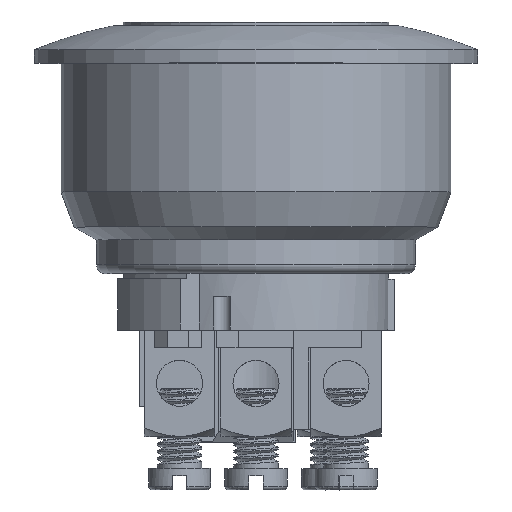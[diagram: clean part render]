
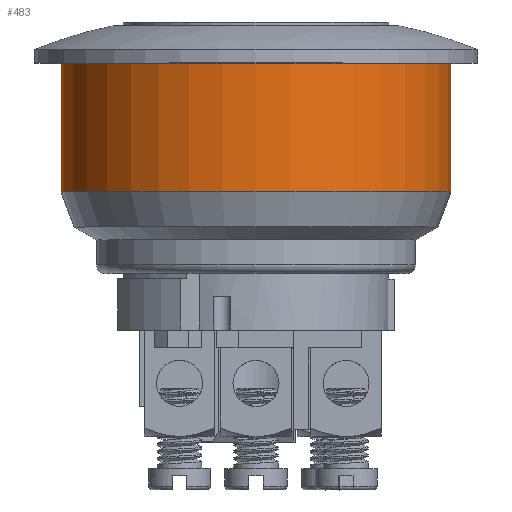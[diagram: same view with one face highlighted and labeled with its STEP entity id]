
A CAD part, top view. The second image highlights one B-rep face of the part: STEP entity #483.
In plain terms, the highlighted cylindrical face has radius 11 mm (diameter 22 mm), a partial arc.
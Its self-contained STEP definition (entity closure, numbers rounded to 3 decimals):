
#209=DIRECTION('',(0.,1.,0.));
#210=VECTOR('',#209,7.261);
#211=CARTESIAN_POINT('',(22.,4.679,-11.006));
#212=LINE('',#211,#210);
#213=CARTESIAN_POINT('',(11.,4.679,-11.006));
#214=DIRECTION('',(0.,-1.,0.));
#215=DIRECTION('',(1.,0.,0.));
#216=AXIS2_PLACEMENT_3D('',#213,#214,#215);
#218=DIRECTION('',(0.,1.,0.));
#219=VECTOR('',#218,7.261);
#220=CARTESIAN_POINT('',(0.,4.679,-11.006));
#221=LINE('',#220,#219);
#232=CARTESIAN_POINT('',(11.,11.94,-11.006));
#233=DIRECTION('',(0.,-1.,0.));
#234=DIRECTION('',(1.,0.,0.));
#235=AXIS2_PLACEMENT_3D('',#232,#233,#234);
#296=CARTESIAN_POINT('',(22.,4.679,-11.006));
#298=VERTEX_POINT('',#296);
#299=CARTESIAN_POINT('',(22.,11.94,-11.006));
#300=VERTEX_POINT('',#299);
#308=CARTESIAN_POINT('',(0.,4.679,-11.006));
#310=VERTEX_POINT('',#308);
#311=CARTESIAN_POINT('',(0.,11.94,-11.006));
#312=VERTEX_POINT('',#311);
#469=CARTESIAN_POINT('',(11.,-0.619,-11.006));
#470=DIRECTION('',(0.,1.,0.));
#471=DIRECTION('',(1.,0.,0.));
#472=AXIS2_PLACEMENT_3D('',#469,#470,#471);
#473=CYLINDRICAL_SURFACE('',#472,11.);
#475=ORIENTED_EDGE('',*,*,#474,.F.);
#476=ORIENTED_EDGE('',*,*,#364,.T.);
#478=ORIENTED_EDGE('',*,*,#477,.T.);
#480=ORIENTED_EDGE('',*,*,#479,.F.);
#481=EDGE_LOOP('',(#475,#476,#478,#480));
#482=FACE_OUTER_BOUND('',#481,.F.);
#217=CIRCLE('',#216,11.);
#236=CIRCLE('',#235,11.);
#364=EDGE_CURVE('',#298,#310,#217,.T.);
#474=EDGE_CURVE('',#298,#300,#212,.T.);
#477=EDGE_CURVE('',#310,#312,#221,.T.);
#479=EDGE_CURVE('',#300,#312,#236,.T.);
#483=ADVANCED_FACE('',(#482),#473,.T.);
